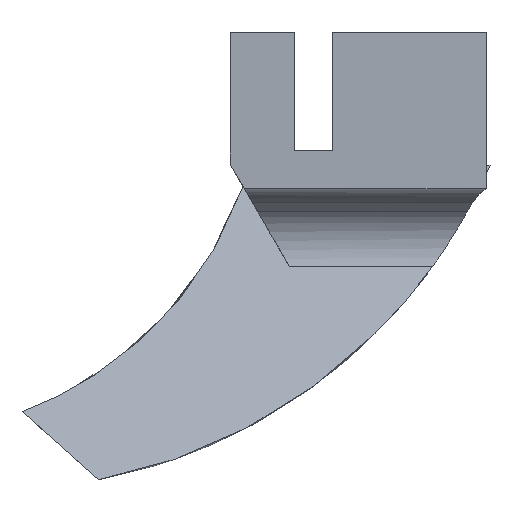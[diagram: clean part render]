
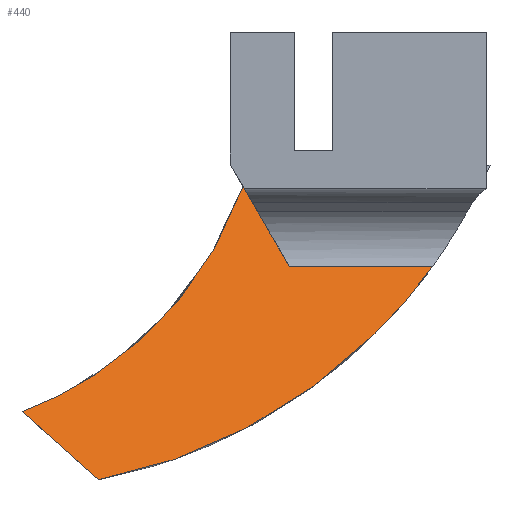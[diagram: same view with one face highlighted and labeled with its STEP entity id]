
A CAD part, front view. The second image highlights one B-rep face of the part: STEP entity #440.
In plain terms, the highlighted planar face has unit normal (0, -0.894, 0.447).
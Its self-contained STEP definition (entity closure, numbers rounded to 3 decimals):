
#440=ADVANCED_FACE('',(#841),#843,.F.);
#841=FACE_BOUND('',#842,.T.);
#842=EDGE_LOOP('',(#1130,#1131,#1132,#1133,#1134));
#843=PLANE('',#844);
#844=AXIS2_PLACEMENT_3D('',#845,#846,#847);
#845=CARTESIAN_POINT('',(4.006,-6.907,-66.6));
#846=DIRECTION('',(0.,0.894,-0.447));
#847=DIRECTION('',(0.,0.447,0.894));
#1130=ORIENTED_EDGE('',*,*,#1296,.F.);
#1131=ORIENTED_EDGE('',*,*,#1267,.T.);
#1132=ORIENTED_EDGE('',*,*,#1295,.F.);
#1133=ORIENTED_EDGE('',*,*,#1297,.F.);
#1134=ORIENTED_EDGE('',*,*,#1283,.F.);
#1267=EDGE_CURVE('',#1474,#1472,#1475,.T.);
#1283=EDGE_CURVE('',#1498,#1500,#1501,.F.);
#1295=EDGE_CURVE('',#1516,#1472,#1518,.F.);
#1296=EDGE_CURVE('',#1474,#1498,#1519,.T.);
#1297=EDGE_CURVE('',#1500,#1516,#1520,.F.);
#1472=VERTEX_POINT('',#1970);
#1474=VERTEX_POINT('',#1974);
#1475=LINE('',#1975,#1976);
#1498=VERTEX_POINT('',#2031);
#1500=VERTEX_POINT('',#2067);
#1501=(BOUNDED_CURVE()B_SPLINE_CURVE(3,
(#2068,#2069,#2070,#2071),
.UNSPECIFIED.,.F.,.F.)B_SPLINE_CURVE_WITH_KNOTS((4,4),
(0.,1.),
.UNSPECIFIED.)CURVE()GEOMETRIC_REPRESENTATION_ITEM()RATIONAL_B_SPLINE_CURVE((1.,
0.953,0.953,1.))REPRESENTATION_ITEM(''));
#1516=VERTEX_POINT('',#2125);
#1518=(BOUNDED_CURVE()B_SPLINE_CURVE(3,
(#2129,#2130,#2131,#2132),
.UNSPECIFIED.,.F.,.F.)B_SPLINE_CURVE_WITH_KNOTS((4,4),
(0.,1.),
.UNSPECIFIED.)CURVE()GEOMETRIC_REPRESENTATION_ITEM()RATIONAL_B_SPLINE_CURVE((1.,
0.937,0.937,1.))REPRESENTATION_ITEM(''));
#1519=LINE('',#2133,#2134);
#1520=LINE('',#2136,#2137);
#1970=CARTESIAN_POINT('',(19.547,-0.734,-54.255));
#1974=CARTESIAN_POINT('',(21.505,-2.43,-57.647));
#1975=CARTESIAN_POINT('',(21.505,-2.43,-57.647));
#1976=VECTOR('',#1977,1.);
#1977=DIRECTION('',(-0.459,0.397,0.795));
#2031=CARTESIAN_POINT('',(27.54,-2.43,-57.647));
#2067=CARTESIAN_POINT('',(13.459,-6.924,-66.635));
#2068=CARTESIAN_POINT('',(13.459,-6.924,-66.635));
#2069=CARTESIAN_POINT('',(19.197,-6.372,-65.53));
#2070=CARTESIAN_POINT('',(24.123,-4.8,-62.387));
#2071=CARTESIAN_POINT('',(27.54,-2.43,-57.647));
#2125=CARTESIAN_POINT('',(10.225,-5.487,-63.76));
#2129=CARTESIAN_POINT('',(19.547,-0.734,-54.255));
#2130=CARTESIAN_POINT('',(17.981,-2.97,-58.726));
#2131=CARTESIAN_POINT('',(14.665,-4.661,-62.108));
#2132=CARTESIAN_POINT('',(10.225,-5.487,-63.76));
#2133=CARTESIAN_POINT('',(21.505,-2.43,-57.647));
#2134=VECTOR('',#2135,1.);
#2135=DIRECTION('',(1.,0.,0.));
#2136=CARTESIAN_POINT('',(10.225,-5.487,-63.76));
#2137=VECTOR('',#2138,1.);
#2138=DIRECTION('',(0.709,-0.315,-0.63));
